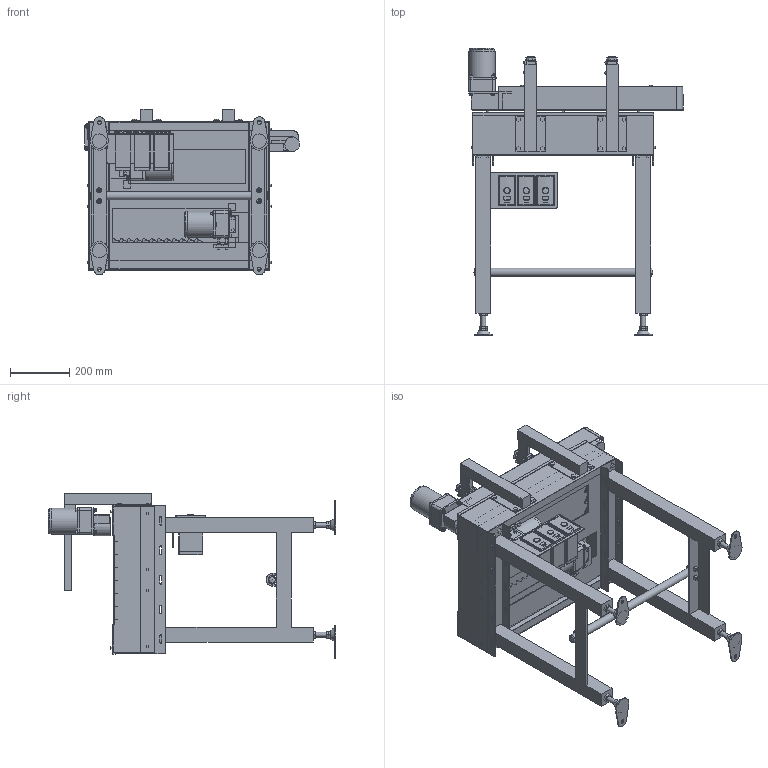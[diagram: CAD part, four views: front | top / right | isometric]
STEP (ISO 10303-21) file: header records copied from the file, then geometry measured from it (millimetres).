
FILE_DESCRIPTION (( 'STEP AP214' ), '1' );
FILE_NAME ('SGA-300-L-C.STEP', '2022-04-12T01:45:04', ( '' ), ( '' ), 'SwSTEP 2.0', 'SolidWorks 2017', '' );
FILE_SCHEMA (( 'AUTOMOTIVE_DESIGN' ));
Length unit declared in the file: millimetre
Products named in the file (18): SWD-SGA-S-原動部(勝手違い); SK-34-WH; SWD-U-010 Assy_固定板t6; SWD-SGA-S-狠嫩白(彑庤堘偄); SWD-SGA-S-脚_300幅; VFD001L21A_WEB図; SWD-SGA-S-ﾍﾞｰｽﾌﾚｰﾑ(勝手違い)_300幅; SWD-SGA-S-原動ｶﾊﾞｰ(勝手違い); SWD-AJ-020(75mm); SGA-300-L-C; SWD-SGA-S-ﾛｰﾗ部(勝手違い)_300幅; SWD-UBM540-403-E2+5GN3-18K; SWD-SGA-S-ｻｲﾄﾞﾍﾞﾔ(勝手違い)_300入口側飛出し; SWD-SGA-衛動葀杺_590; SWD-SGA-S-ｺﾝﾄﾛｰﾗﾌﾞﾗｹｯﾄ(勝手違い); SWD-SGA-S-ﾃｰｸｱｯﾌﾟ(勝手違い); SWD-UBM540-403-E2+5GN3-18K_t4; SWD-SGA-S-徊霓娃詭x帩
Assembly tree (27 placements, depth 3):
  SGA-300-L-C
    SWD-SGA-S-ﾍﾞｰｽﾌﾚｰﾑ(勝手違い)_300幅
    SWD-SGA-S-ﾛｰﾗ部(勝手違い)_300幅
    SWD-SGA-S-脚_300幅  x2
    SWD-AJ-020(75mm)  x4
    SWD-U-010 Assy_固定板t6  x2
    SWD-SGA-衛動葀杺_590
    SWD-SGA-S-原動部(勝手違い)  x2
      SWD-UBM540-403-E2+5GN3-18K_t4
      SWD-SGA-S-原動ｶﾊﾞｰ(勝手違い)
      SWD-SGA-S-ﾃｰｸｱｯﾌﾟ(勝手違い)
    SWD-SGA-S-狠嫩白(彑庤堘偄)
      SWD-SGA-S-ｺﾝﾄﾛｰﾗﾌﾞﾗｹｯﾄ(勝手違い)
      VFD001L21A_WEB図  x3
    SWD-SGA-S-徊霓娃詭x帩  x2
    SK-34-WH  x2
    SWD-SGA-S-ｻｲﾄﾞﾍﾞﾔ(勝手違い)_300入口側飛出し
    SWD-UBM540-403-E2+5GN3-18K
Bounding box: 725.9 x 969.4 x 560 mm (x, y, z)
Volume: 20165167.3 mm3; surface area: 4212765.1 mm2
Topology: 81 solids, 82 shells, 2566 faces, 6349 edges, 4101 vertices
Faces by surface type: plane 1759, cylinder 525, cone 161, bspline 64, torus 34, sphere 23
Full cylindrical faces by diameter (mm): 2 x3, 4.5 x6, 5 x14, 5.5 x3, 6 x34, 6.5 x24, 6.6 x12, 7 x4, 8 x10, 8.49 x3, 9 x8, 10 x12, 10.5 x1, 11.5 x2, 12 x3, 12.2 x2, 12.5 x12, 13 x4, 16 x10, 17 x4, 20 x1, 22 x1, 27.2 x1, 28 x2, 36 x3, 40 x4, 50 x2, 83 x3, 84 x3, 86.3 x3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
Entity records: 56567 total; most frequent: CARTESIAN_POINT 10215, ORIENTED_EDGE 7882, DIRECTION 7834, EDGE_CURVE 3941, VECTOR 2978, LINE 2978, VERTEX_POINT 2671, AXIS2_PLACEMENT_3D 2428
